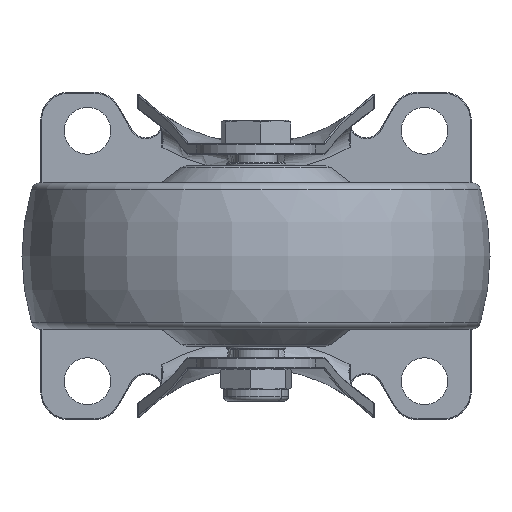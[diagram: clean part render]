
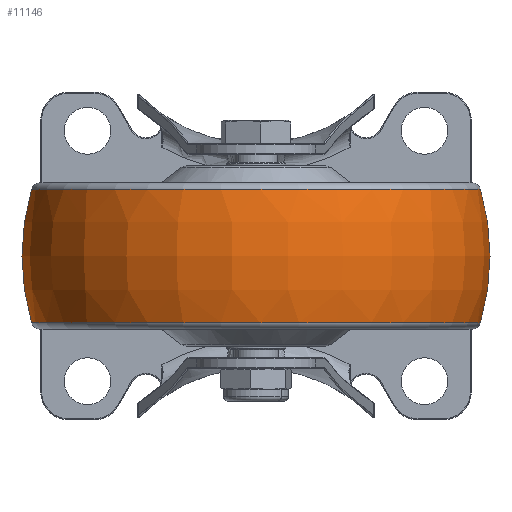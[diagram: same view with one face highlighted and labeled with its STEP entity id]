
A CAD part, front view. The second image highlights one B-rep face of the part: STEP entity #11146.
In plain terms, the highlighted toroidal (fillet/blend) face has major radius 0.234 mm and minor radius 50.234 mm.
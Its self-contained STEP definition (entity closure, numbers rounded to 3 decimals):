
#21 = DIRECTION ( 'NONE',  ( 0., 0., -1. ) ) ;
#451 = AXIS2_PLACEMENT_3D ( 'NONE', #13878, #14363, #9008 ) ;
#1111 = CARTESIAN_POINT ( 'NONE',  ( 47.947, 0., 14.216 ) ) ;
#1343 = CARTESIAN_POINT ( 'NONE',  ( -0.235, 0., 0. ) ) ;
#1422 = DIRECTION ( 'NONE',  ( -1., 0., 0. ) ) ;
#1552 = CIRCLE ( 'NONE', #13431, 50.235 ) ;
#2708 = VERTEX_POINT ( 'NONE', #10580 ) ;
#3620 = DIRECTION ( 'NONE',  ( 0., -1., 0. ) ) ;
#5274 = CARTESIAN_POINT ( 'NONE',  ( -47.947, 0., -14.216 ) ) ;
#5815 = ORIENTED_EDGE ( 'NONE', *, *, #11797, .F. ) ;
#6384 = DIRECTION ( 'NONE',  ( 0., 0., -1. ) ) ;
#6446 = ORIENTED_EDGE ( 'NONE', *, *, #6625, .T. ) ;
#6625 = EDGE_CURVE ( 'NONE', #14313, #10465, #11138, .T. ) ;
#7643 = DIRECTION ( 'NONE',  ( -1., 0., 0. ) ) ;
#7788 = AXIS2_PLACEMENT_3D ( 'NONE', #12695, #3620, #6384 ) ;
#7837 = EDGE_CURVE ( 'NONE', #12432, #2708, #15609, .T. ) ;
#8131 = AXIS2_PLACEMENT_3D ( 'NONE', #8916, #15496, #15671 ) ;
#8916 = CARTESIAN_POINT ( 'NONE',  ( 0., 0., -14.216 ) ) ;
#9008 = DIRECTION ( 'NONE',  ( -1., 0., 0. ) ) ;
#9099 = CARTESIAN_POINT ( 'NONE',  ( 0., 0., 14.216 ) ) ;
#9177 = FACE_OUTER_BOUND ( 'NONE', #15611, .T. ) ;
#9479 = EDGE_CURVE ( 'NONE', #10465, #12432, #13565, .T. ) ;
#10193 = ORIENTED_EDGE ( 'NONE', *, *, #9479, .T. ) ;
#10465 = VERTEX_POINT ( 'NONE', #12361 ) ;
#10580 = CARTESIAN_POINT ( 'NONE',  ( 47.947, 0., -14.216 ) ) ;
#11138 = CIRCLE ( 'NONE', #15582, 47.947 ) ;
#11146 = ADVANCED_FACE ( 'NONE', ( #9177 ), #14526, .T. ) ;
#11797 = EDGE_CURVE ( 'NONE', #14313, #2708, #1552, .T. ) ;
#11880 = DIRECTION ( 'NONE',  ( 0., 1., 0. ) ) ;
#12361 = CARTESIAN_POINT ( 'NONE',  ( -47.947, 0., 14.216 ) ) ;
#12432 = VERTEX_POINT ( 'NONE', #5274 ) ;
#12695 = CARTESIAN_POINT ( 'NONE',  ( 0.235, 0., 0. ) ) ;
#13431 = AXIS2_PLACEMENT_3D ( 'NONE', #1343, #11880, #1422 ) ;
#13565 = CIRCLE ( 'NONE', #7788, 50.235 ) ;
#13878 = CARTESIAN_POINT ( 'NONE',  ( 0., 0., 0. ) ) ;
#14313 = VERTEX_POINT ( 'NONE', #1111 ) ;
#14363 = DIRECTION ( 'NONE',  ( 0., 0., -1. ) ) ;
#14486 = ORIENTED_EDGE ( 'NONE', *, *, #7837, .T. ) ;
#14526 = TOROIDAL_SURFACE ( 'NONE', #451, -0.235, 50.235 ) ;
#15496 = DIRECTION ( 'NONE',  ( 0., 0., 1. ) ) ;
#15582 = AXIS2_PLACEMENT_3D ( 'NONE', #9099, #21, #7643 ) ;
#15609 = CIRCLE ( 'NONE', #8131, 47.947 ) ;
#15611 = EDGE_LOOP ( 'NONE', ( #5815, #6446, #10193, #14486 ) ) ;
#15671 = DIRECTION ( 'NONE',  ( 1., 0., 0. ) ) ;
